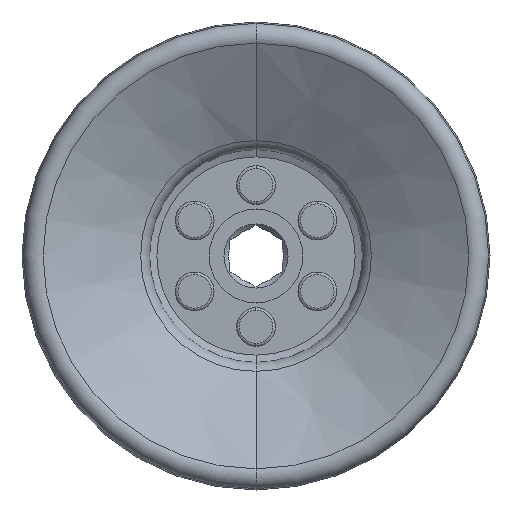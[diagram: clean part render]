
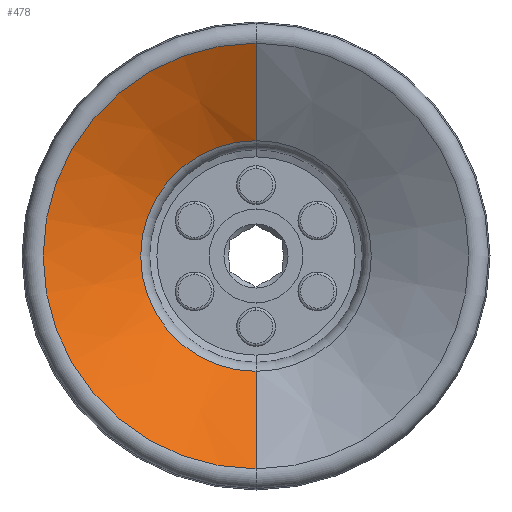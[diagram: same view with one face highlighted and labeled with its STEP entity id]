
A CAD part, front view. The second image highlights one B-rep face of the part: STEP entity #478.
In plain terms, the highlighted conical face has half-angle 59.946 degrees and reference radius 17.248 mm.
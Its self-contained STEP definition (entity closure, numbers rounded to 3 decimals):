
#284 = CARTESIAN_POINT ( 'NONE',  ( 0., -41.292, 17.248 ) ) ;
#373 = DIRECTION ( 'NONE',  ( 0., -0.501, 0.866 ) ) ;
#478 = ADVANCED_FACE ( 'NONE', ( #8505 ), #6678, .F. ) ;
#1203 = EDGE_CURVE ( 'NONE', #1926, #2755, #5799, .T. ) ;
#1323 = DIRECTION ( 'NONE',  ( 0., -0.501, -0.866 ) ) ;
#1518 = DIRECTION ( 'NONE',  ( 0., -1., 0. ) ) ;
#1926 = VERTEX_POINT ( 'NONE', #7454 ) ;
#2562 = CARTESIAN_POINT ( 'NONE',  ( 0., -41.292, -17.248 ) ) ;
#2755 = VERTEX_POINT ( 'NONE', #7861 ) ;
#2769 = DIRECTION ( 'NONE',  ( 0., 0., 1. ) ) ;
#3431 = LINE ( 'NONE', #2562, #5834 ) ;
#3482 = VERTEX_POINT ( 'NONE', #4172 ) ;
#3588 = DIRECTION ( 'NONE',  ( 0., 0., -1. ) ) ;
#3738 = CIRCLE ( 'NONE', #6526, 17.248 ) ;
#3773 = LINE ( 'NONE', #284, #8298 ) ;
#4058 = CARTESIAN_POINT ( 'NONE',  ( 0., -41.292, 0. ) ) ;
#4084 = ORIENTED_EDGE ( 'NONE', *, *, #8245, .F. ) ;
#4091 = DIRECTION ( 'NONE',  ( 0., 1., 0. ) ) ;
#4172 = CARTESIAN_POINT ( 'NONE',  ( 0., -41.292, 17.248 ) ) ;
#5193 = AXIS2_PLACEMENT_3D ( 'NONE', #7631, #4091, #6899 ) ;
#5222 = EDGE_LOOP ( 'NONE', ( #7246, #6895, #9094, #4084 ) ) ;
#5434 = DIRECTION ( 'NONE',  ( 0., 1., 0. ) ) ;
#5505 = AXIS2_PLACEMENT_3D ( 'NONE', #8592, #1518, #3588 ) ;
#5594 = EDGE_CURVE ( 'NONE', #8214, #3482, #3738, .T. ) ;
#5799 = CIRCLE ( 'NONE', #5193, 31.833 ) ;
#5834 = VECTOR ( 'NONE', #1323, 1000. ) ;
#5871 = EDGE_CURVE ( 'NONE', #3482, #2755, #3773, .T. ) ;
#6526 = AXIS2_PLACEMENT_3D ( 'NONE', #4058, #5434, #2769 ) ;
#6678 = CONICAL_SURFACE ( 'NONE', #5505, 17.248, 1.046 ) ;
#6895 = ORIENTED_EDGE ( 'NONE', *, *, #5871, .T. ) ;
#6899 = DIRECTION ( 'NONE',  ( 0., 0., 1. ) ) ;
#7246 = ORIENTED_EDGE ( 'NONE', *, *, #5594, .T. ) ;
#7437 = CARTESIAN_POINT ( 'NONE',  ( 0., -41.292, -17.248 ) ) ;
#7454 = CARTESIAN_POINT ( 'NONE',  ( 0., -49.731, -31.833 ) ) ;
#7631 = CARTESIAN_POINT ( 'NONE',  ( 0., -49.731, 0. ) ) ;
#7861 = CARTESIAN_POINT ( 'NONE',  ( 0., -49.731, 31.833 ) ) ;
#8214 = VERTEX_POINT ( 'NONE', #7437 ) ;
#8245 = EDGE_CURVE ( 'NONE', #8214, #1926, #3431, .T. ) ;
#8298 = VECTOR ( 'NONE', #373, 1000. ) ;
#8505 = FACE_OUTER_BOUND ( 'NONE', #5222, .T. ) ;
#8592 = CARTESIAN_POINT ( 'NONE',  ( 0., -41.292, 0. ) ) ;
#9094 = ORIENTED_EDGE ( 'NONE', *, *, #1203, .F. ) ;
